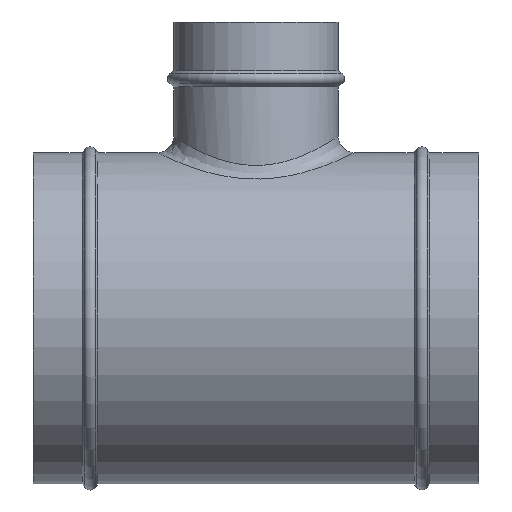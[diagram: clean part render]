
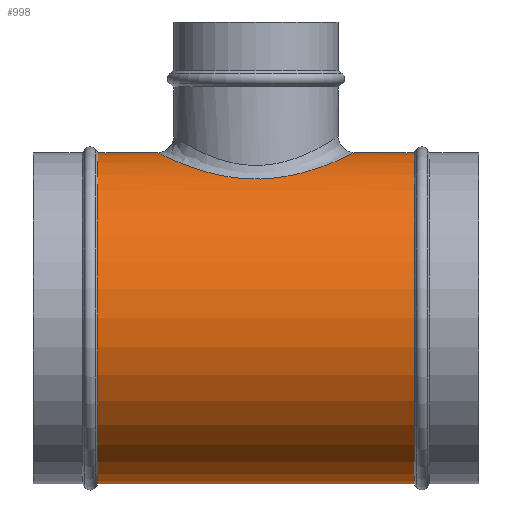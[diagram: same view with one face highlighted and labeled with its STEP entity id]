
A CAD part, top view. The second image highlights one B-rep face of the part: STEP entity #998.
In plain terms, the highlighted cylindrical face has radius 102.25 mm (diameter 204.5 mm), a partial arc.
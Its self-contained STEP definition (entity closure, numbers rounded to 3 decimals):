
#188=CARTESIAN_POINT('',(-60.75,102.25,
0.));
#189=CARTESIAN_POINT('',(-60.75,102.25,2.775));
#190=CARTESIAN_POINT('',(-60.295,102.025,8.343));
#191=CARTESIAN_POINT('',(-58.17,100.99,16.73));
#192=CARTESIAN_POINT('',(-54.52,99.273,24.968));
#193=CARTESIAN_POINT('',(-49.179,96.909,32.956));
#194=CARTESIAN_POINT('',(-42.101,94.072,40.297));
#195=CARTESIAN_POINT('',(-33.625,91.164,46.438));
#196=CARTESIAN_POINT('',(-24.201,88.627,51.054));
#197=CARTESIAN_POINT('',(-14.64,86.873,53.945));
#198=CARTESIAN_POINT('',(-5.432,85.989,55.328));
#199=CARTESIAN_POINT('',(3.851,85.91,55.448));
#200=CARTESIAN_POINT('',(13.147,86.687,54.24));
#201=CARTESIAN_POINT('',(21.386,88.078,51.964));
#202=CARTESIAN_POINT('',(28.079,89.654,49.203));
#203=CARTESIAN_POINT('',(33.637,91.243,46.193));
#204=CARTESIAN_POINT('',(38.295,92.765,43.055));
#205=CARTESIAN_POINT('',(42.17,94.157,39.917));
#206=CARTESIAN_POINT('',(45.403,95.401,36.84));
#207=CARTESIAN_POINT('',(48.081,96.487,33.89));
#208=CARTESIAN_POINT('',(50.415,97.471,30.95));
#209=CARTESIAN_POINT('',(52.655,98.45,27.692));
#210=CARTESIAN_POINT('',(54.669,99.358,24.237));
#211=CARTESIAN_POINT('',(56.404,100.16,20.678));
#212=CARTESIAN_POINT('',(57.868,100.852,16.995));
#213=CARTESIAN_POINT('',(59.064,101.426,13.156));
#214=CARTESIAN_POINT('',(59.984,101.874,9.095));
#215=CARTESIAN_POINT('',(60.593,102.173,4.757));
#216=CARTESIAN_POINT('',(60.75,102.25,1.622));
#217=CARTESIAN_POINT('',(60.75,102.25,0.));
#222=CARTESIAN_POINT('',(97.65,0.,0.));
#223=DIRECTION('',(1.,0.,0.));
#224=DIRECTION('',(0.,1.,0.));
#225=AXIS2_PLACEMENT_3D('',#222,#223,#224);
#230=CARTESIAN_POINT('',(-97.65,0.,0.));
#231=DIRECTION('',(1.,0.,0.));
#232=DIRECTION('',(0.,1.,0.));
#233=AXIS2_PLACEMENT_3D('',#230,#231,#232);
#304=CARTESIAN_POINT('',(60.75,102.25,0.));
#341=CARTESIAN_POINT('',(-60.75,102.25,
0.));
#346=DIRECTION('',(-1.,0.,0.));
#347=VECTOR('',#346,36.9);
#348=CARTESIAN_POINT('',(-60.75,102.25,
0.));
#349=LINE('',#348,#347);
#361=DIRECTION('',(-1.,0.,0.));
#362=VECTOR('',#361,195.3);
#363=CARTESIAN_POINT('',(97.65,-102.25,0.));
#364=LINE('',#363,#362);
#376=DIRECTION('',(-1.,0.,0.));
#377=VECTOR('',#376,36.9);
#378=CARTESIAN_POINT('',(97.65,102.25,0.));
#379=LINE('',#378,#377);
#831=CARTESIAN_POINT('',(97.65,102.25,0.));
#832=CARTESIAN_POINT('',(97.65,-102.25,0.));
#833=VERTEX_POINT('',#831);
#834=VERTEX_POINT('',#832);
#835=CARTESIAN_POINT('',(-97.65,102.25,0.));
#836=CARTESIAN_POINT('',(-97.65,-102.25,0.));
#837=VERTEX_POINT('',#835);
#838=VERTEX_POINT('',#836);
#871=VERTEX_POINT('',#304);
#872=VERTEX_POINT('',#341);
#979=CARTESIAN_POINT('',(-151.25,0.,0.));
#980=DIRECTION('',(1.,0.,0.));
#981=DIRECTION('',(0.,-1.,0.));
#982=AXIS2_PLACEMENT_3D('',#979,#980,#981);
#983=CYLINDRICAL_SURFACE('',#982,102.25);
#985=ORIENTED_EDGE('',*,*,#984,.T.);
#987=ORIENTED_EDGE('',*,*,#986,.F.);
#989=ORIENTED_EDGE('',*,*,#988,.T.);
#991=ORIENTED_EDGE('',*,*,#990,.T.);
#993=ORIENTED_EDGE('',*,*,#992,.F.);
#995=ORIENTED_EDGE('',*,*,#994,.F.);
#996=EDGE_LOOP('',(#985,#987,#989,#991,#993,#995));
#997=FACE_OUTER_BOUND('',#996,.F.);
#218=B_SPLINE_CURVE_WITH_KNOTS('',3,(#188,#189,#190,#191,#192,#193,#194,#195,
#196,#197,#198,#199,#200,#201,#202,#203,#204,#205,#206,#207,#208,#209,#210,#211,
#212,#213,#214,#215,#216,#217),.UNSPECIFIED.,.F.,.F.,(4,1,1,1,1,1,1,1,1,1,1,1,1,
1,1,1,1,1,1,1,1,1,1,1,1,1,1,4),(0.,0.037,0.074,
0.111,0.148,0.185,0.222,
0.259,0.296,0.333,0.37,
0.407,0.444,0.481,0.519,
0.556,0.593,0.63,0.667,
0.704,0.741,0.778,0.815,
0.852,0.889,0.926,0.963,1.),
.UNSPECIFIED.);
#226=CIRCLE('',#225,102.25);
#234=CIRCLE('',#233,102.25);
#984=EDGE_CURVE('',#872,#871,#218,.T.);
#986=EDGE_CURVE('',#833,#871,#379,.T.);
#988=EDGE_CURVE('',#833,#834,#226,.T.);
#990=EDGE_CURVE('',#834,#838,#364,.T.);
#992=EDGE_CURVE('',#837,#838,#234,.T.);
#994=EDGE_CURVE('',#872,#837,#349,.T.);
#998=ADVANCED_FACE('',(#997),#983,.T.);
